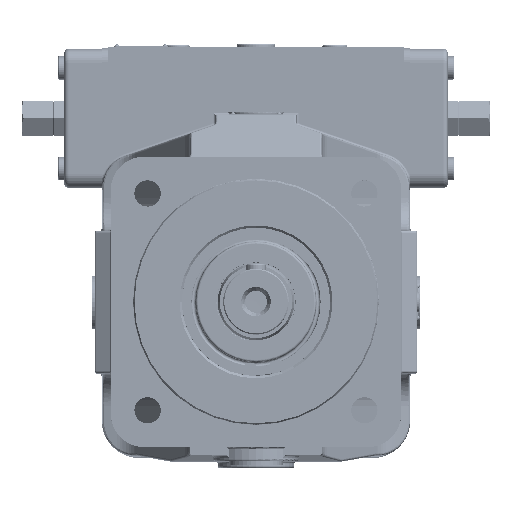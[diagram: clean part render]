
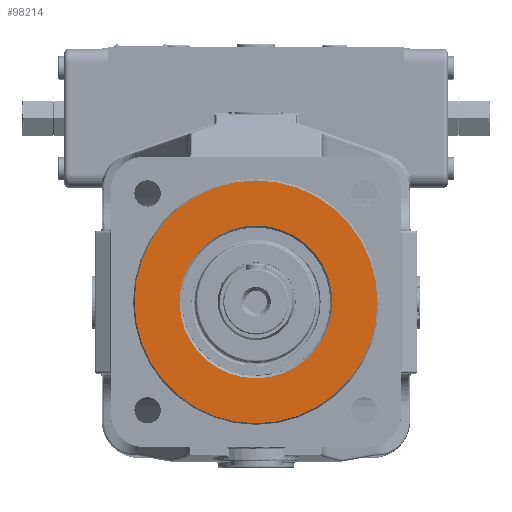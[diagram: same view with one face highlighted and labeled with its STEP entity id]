
A CAD part, top view. The second image highlights one B-rep face of the part: STEP entity #98214.
In plain terms, the highlighted planar face has unit normal (0, 0, 1).
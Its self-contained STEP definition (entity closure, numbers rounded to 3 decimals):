
#4615 = CARTESIAN_POINT ( 'NONE',  ( 0., 0., 38. ) ) ;
#10163 = AXIS2_PLACEMENT_3D ( 'NONE', #4615, #341341, #172943 ) ;
#15944 = VERTEX_POINT ( 'NONE', #80801 ) ;
#24351 = AXIS2_PLACEMENT_3D ( 'NONE', #145455, #444752, #190265 ) ;
#39704 = VERTEX_POINT ( 'NONE', #202105 ) ;
#42978 = CIRCLE ( 'NONE', #10163, 110.845 ) ;
#53330 = DIRECTION ( 'NONE',  ( 1., 0., 0. ) ) ;
#76153 = CIRCLE ( 'NONE', #24351, 110.845 ) ;
#80801 = CARTESIAN_POINT ( 'NONE',  ( 110.845, 0., 38. ) ) ;
#98214 = ADVANCED_FACE ( 'NONE', ( #501506, #327605 ), #250624, .T. ) ;
#107298 = EDGE_CURVE ( 'NONE', #258671, #39704, #516867, .T. ) ;
#132122 = EDGE_CURVE ( 'NONE', #15944, #404238, #76153, .T. ) ;
#132670 = DIRECTION ( 'NONE',  ( 0., 0., -1. ) ) ;
#139053 = CIRCLE ( 'NONE', #422119, 69.75 ) ;
#145455 = CARTESIAN_POINT ( 'NONE',  ( 0., 0., 38. ) ) ;
#172943 = DIRECTION ( 'NONE',  ( 1., 0., 0. ) ) ;
#185264 = CARTESIAN_POINT ( 'NONE',  ( -110.845, 0., 38. ) ) ;
#190265 = DIRECTION ( 'NONE',  ( 1., 0., 0. ) ) ;
#202105 = CARTESIAN_POINT ( 'NONE',  ( 69.75, 0., 38. ) ) ;
#205728 = DIRECTION ( 'NONE',  ( 1., 0., 0. ) ) ;
#220462 = CARTESIAN_POINT ( 'NONE',  ( 0., 0., 38. ) ) ;
#239701 = EDGE_CURVE ( 'NONE', #39704, #258671, #139053, .T. ) ;
#250624 = PLANE ( 'NONE',  #508923 ) ;
#258671 = VERTEX_POINT ( 'NONE', #301486 ) ;
#301486 = CARTESIAN_POINT ( 'NONE',  ( -69.75, 0., 38. ) ) ;
#327605 = FACE_OUTER_BOUND ( 'NONE', #378331, .T. ) ;
#329338 = CARTESIAN_POINT ( 'NONE',  ( 0., 0., 38. ) ) ;
#333029 = DIRECTION ( 'NONE',  ( 0., 0., 1. ) ) ;
#341341 = DIRECTION ( 'NONE',  ( 0., 0., 1. ) ) ;
#347154 = DIRECTION ( 'NONE',  ( 0., 0., -1. ) ) ;
#361356 = EDGE_LOOP ( 'NONE', ( #372206, #493234 ) ) ;
#372206 = ORIENTED_EDGE ( 'NONE', *, *, #239701, .T. ) ;
#374480 = AXIS2_PLACEMENT_3D ( 'NONE', #524781, #347154, #53330 ) ;
#378331 = EDGE_LOOP ( 'NONE', ( #378875, #505054 ) ) ;
#378875 = ORIENTED_EDGE ( 'NONE', *, *, #527192, .T. ) ;
#392584 = DIRECTION ( 'NONE',  ( 1., 0., 0. ) ) ;
#404238 = VERTEX_POINT ( 'NONE', #185264 ) ;
#422119 = AXIS2_PLACEMENT_3D ( 'NONE', #220462, #132670, #392584 ) ;
#444752 = DIRECTION ( 'NONE',  ( 0., 0., 1. ) ) ;
#493234 = ORIENTED_EDGE ( 'NONE', *, *, #107298, .T. ) ;
#501506 = FACE_BOUND ( 'NONE', #361356, .T. ) ;
#505054 = ORIENTED_EDGE ( 'NONE', *, *, #132122, .T. ) ;
#508923 = AXIS2_PLACEMENT_3D ( 'NONE', #329338, #333029, #205728 ) ;
#516867 = CIRCLE ( 'NONE', #374480, 69.75 ) ;
#524781 = CARTESIAN_POINT ( 'NONE',  ( 0., 0., 38. ) ) ;
#527192 = EDGE_CURVE ( 'NONE', #404238, #15944, #42978, .T. ) ;
